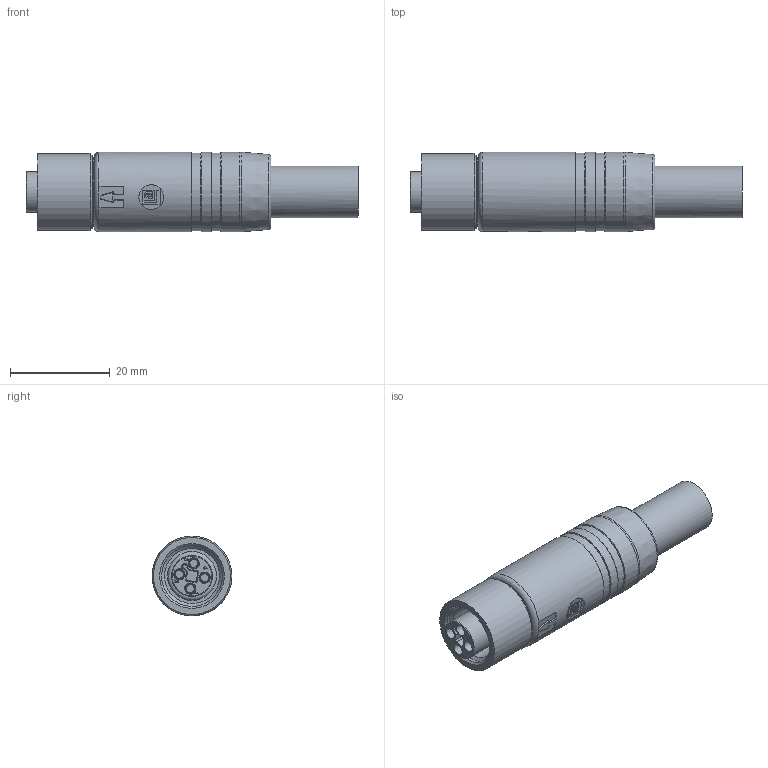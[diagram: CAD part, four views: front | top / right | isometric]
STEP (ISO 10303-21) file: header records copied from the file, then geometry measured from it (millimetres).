
FILE_DESCRIPTION( ( 'Unknown' ), '1' );
FILE_NAME( 'C:/caxtemp/934-849-999_0_1_000191611DNR_RKT_S__4T____M.stp', 'Unknown', ( 'Unknown' ), ( 'Unknown' ), 'PSStep 17.0.49', 'Unknown', ' ' );
FILE_SCHEMA( ( 'AUTOMOTIVE_DESIGN { 1 0 10303 214 1 1 1 1 }' ) );
Length unit declared in the file: millimetre
Products named in the file (1): 000-062-C12_0_1_000116998DNR
Bounding box: 66.65 x 16 x 15.99 mm (x, y, z)
Volume: 10282.9 mm3; surface area: 4114.9 mm2
Topology: 1 solids, 1 shells, 189 faces, 435 edges, 273 vertices
Faces by surface type: plane 95, cylinder 51, torus 18, extrusion 12, cone 9, bspline 2, sphere 2
Full cylindrical faces by diameter (mm): 1.6 x4, 2.25 x4, 8.2 x1, 10.4 x1, 11.05 x1, 12 x1, 12.2 x1, 12.9 x1, 15.5 x1, 15.6 x2, 16 x3
Entity records: 7171 total; most frequent: CARTESIAN_POINT 1557, DIRECTION 839, ORIENTED_EDGE 770, EDGE_CURVE 385, AXIS2_PLACEMENT_3D 299, VERTEX_POINT 264, EDGE_LOOP 254, VECTOR 241
